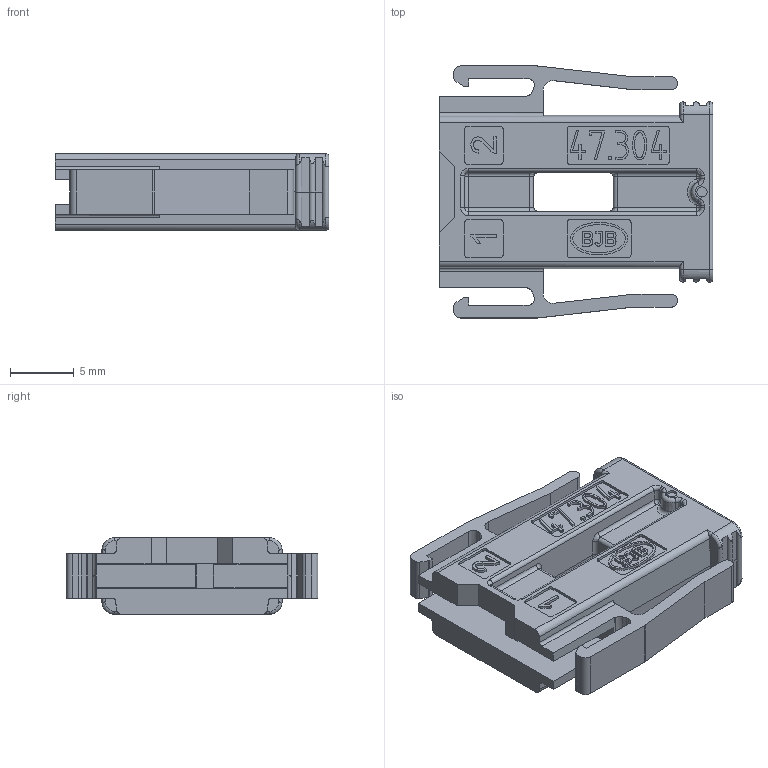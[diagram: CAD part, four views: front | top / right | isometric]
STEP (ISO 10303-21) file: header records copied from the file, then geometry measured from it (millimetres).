
FILE_DESCRIPTION(/* description */ ('Unknown'),/* implementation_level */ '2;1');
FILE_NAME(/* name */ '024-S01-03',/* time_stamp */ '2024-06-25T10:17:45+02:00',/* author */ ('Unknown'),/* organization */ ('Unknown'),/* preprocessor_version */ 'ST-DEVELOPER v16.7',/* originating_system */ 'Solid Edge',/* authorisation */ 'Unknown');
FILE_SCHEMA (('AUTOMOTIVE_DESIGN {1 0 10303 214 3 1 1}'));
Length unit declared in the file: millimetre
Products named in the file (1): 024-S01-03
Bounding box: 21.4 x 19.7 x 6 mm (x, y, z)
Volume: 1338.1 mm3; surface area: 1684.3 mm2
Topology: 1 solids, 1 shells, 394 faces, 1001 edges, 624 vertices
Faces by surface type: plane 211, cylinder 109, bspline 37, cone 15, torus 12, sphere 10
Full cylindrical faces by diameter (mm): 0.8 x1
Entity records: 12308 total; most frequent: CARTESIAN_POINT 3214, ORIENTED_EDGE 1940, DIRECTION 1770, EDGE_CURVE 970, VERTEX_POINT 620, AXIS2_PLACEMENT_3D 620, LINE 530, VECTOR 530
